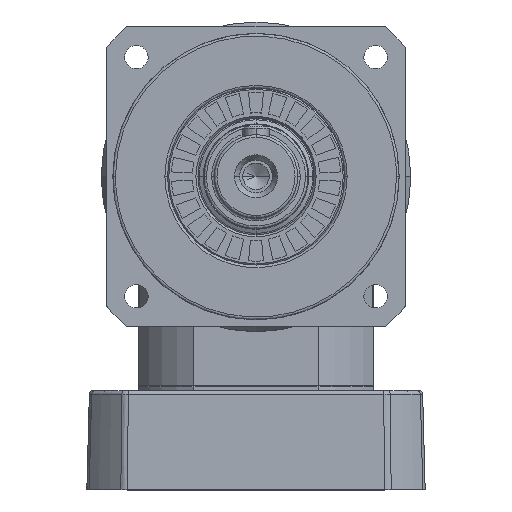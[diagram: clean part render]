
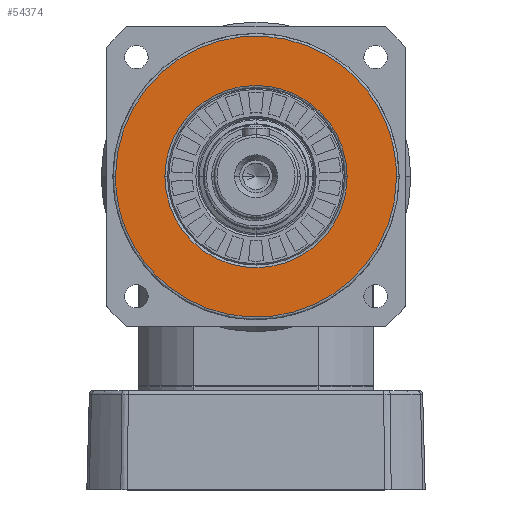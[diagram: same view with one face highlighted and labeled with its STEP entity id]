
A CAD part, top view. The second image highlights one B-rep face of the part: STEP entity #54374.
In plain terms, the highlighted planar face has unit normal (0, 0, 1).
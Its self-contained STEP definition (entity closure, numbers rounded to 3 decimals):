
#3728 = VERTEX_POINT ( 'NONE', #27450 ) ;
#4849 = CARTESIAN_POINT ( 'NONE',  ( -58.917, 6.72, 189.75 ) ) ;
#5689 = FACE_BOUND ( 'NONE', #73771, .T. ) ;
#6246 = CARTESIAN_POINT ( 'NONE',  ( 30.083, 6.72, 189.75 ) ) ;
#6442 = CARTESIAN_POINT ( 'NONE',  ( 30.083, 6.72, 189.75 ) ) ;
#7080 =( BOUNDED_CURVE ( )  B_SPLINE_CURVE ( 3, ( #6442, #30061, #29686, #24078 ),
 .UNSPECIFIED., .F., .T. ) 
 B_SPLINE_CURVE_WITH_KNOTS ( ( 4, 4 ),
 ( 0., 1. ),
 .UNSPECIFIED. ) 
 CURVE ( )  GEOMETRIC_REPRESENTATION_ITEM ( )  RATIONAL_B_SPLINE_CURVE ( ( 1., 0.333, 0.333, 1. ) ) 
 REPRESENTATION_ITEM ( '' )  );
#7733 = CARTESIAN_POINT ( 'NONE',  ( -77.917, 114.72, 189.75 ) ) ;
#10298 = ORIENTED_EDGE ( 'NONE', *, *, #71471, .F. ) ;
#16258 = CARTESIAN_POINT ( 'NONE',  ( 11.083, 6.72, 189.75 ) ) ;
#16936 = FACE_OUTER_BOUND ( 'NONE', #40154, .T. ) ;
#20708 = EDGE_CURVE ( 'NONE', #52757, #29165, #36647, .T. ) ;
#21006 = CARTESIAN_POINT ( 'NONE',  ( 11.083, 76.72, 189.75 ) ) ;
#24078 = CARTESIAN_POINT ( 'NONE',  ( -77.917, 6.72, 189.75 ) ) ;
#26510 = EDGE_CURVE ( 'NONE', #71844, #3728, #7080, .T. ) ;
#27450 = CARTESIAN_POINT ( 'NONE',  ( -77.917, 6.72, 189.75 ) ) ;
#27469 = DIRECTION ( 'NONE',  ( -1., 0., 0. ) ) ;
#28033 = EDGE_CURVE ( 'NONE', #29165, #52757, #40555, .T. ) ;
#29165 = VERTEX_POINT ( 'NONE', #36006 ) ;
#29686 = CARTESIAN_POINT ( 'NONE',  ( -77.917, -101.28, 189.75 ) ) ;
#30061 = CARTESIAN_POINT ( 'NONE',  ( 30.083, -101.28, 189.75 ) ) ;
#30152 = CARTESIAN_POINT ( 'NONE',  ( 30.083, 6.72, 189.75 ) ) ;
#36006 = CARTESIAN_POINT ( 'NONE',  ( 11.083, 6.72, 189.75 ) ) ;
#36455 = CARTESIAN_POINT ( 'NONE',  ( -58.917, 76.72, 189.75 ) ) ;
#36647 =( BOUNDED_CURVE ( )  B_SPLINE_CURVE ( 3, ( #44381, #56348, #67581, #16258 ),
 .UNSPECIFIED., .F., .F. ) 
 B_SPLINE_CURVE_WITH_KNOTS ( ( 4, 4 ),
 ( 0., 1. ),
 .UNSPECIFIED. ) 
 CURVE ( )  GEOMETRIC_REPRESENTATION_ITEM ( )  RATIONAL_B_SPLINE_CURVE ( ( 1., 0.333, 0.333, 1. ) ) 
 REPRESENTATION_ITEM ( '' )  );
#39168 =( BOUNDED_CURVE ( )  B_SPLINE_CURVE ( 3, ( #59090, #7733, #53076, #6246 ),
 .UNSPECIFIED., .F., .T. ) 
 B_SPLINE_CURVE_WITH_KNOTS ( ( 4, 4 ),
 ( 0., 1. ),
 .UNSPECIFIED. ) 
 CURVE ( )  GEOMETRIC_REPRESENTATION_ITEM ( )  RATIONAL_B_SPLINE_CURVE ( ( 1., 0.333, 0.333, 1. ) ) 
 REPRESENTATION_ITEM ( '' )  );
#39698 = ORIENTED_EDGE ( 'NONE', *, *, #28033, .F. ) ;
#39785 = DIRECTION ( 'NONE',  ( 0., 0., -1. ) ) ;
#40154 = EDGE_LOOP ( 'NONE', ( #10298, #57930 ) ) ;
#40555 =( BOUNDED_CURVE ( )  B_SPLINE_CURVE ( 3, ( #56188, #21006, #36455, #4849 ),
 .UNSPECIFIED., .F., .T. ) 
 B_SPLINE_CURVE_WITH_KNOTS ( ( 4, 4 ),
 ( 0., 1. ),
 .UNSPECIFIED. ) 
 CURVE ( )  GEOMETRIC_REPRESENTATION_ITEM ( )  RATIONAL_B_SPLINE_CURVE ( ( 1., 0.333, 0.333, 1. ) ) 
 REPRESENTATION_ITEM ( '' )  );
#44381 = CARTESIAN_POINT ( 'NONE',  ( -58.917, 6.72, 189.75 ) ) ;
#45061 = PLANE ( 'NONE',  #57546 ) ;
#49754 = CARTESIAN_POINT ( 'NONE',  ( -58.917, 6.72, 189.75 ) ) ;
#52757 = VERTEX_POINT ( 'NONE', #49754 ) ;
#53076 = CARTESIAN_POINT ( 'NONE',  ( 30.083, 114.72, 189.75 ) ) ;
#54374 = ADVANCED_FACE ( 'NONE', ( #16936, #5689 ), #45061, .F. ) ;
#56188 = CARTESIAN_POINT ( 'NONE',  ( 11.083, 6.72, 189.75 ) ) ;
#56348 = CARTESIAN_POINT ( 'NONE',  ( -58.917, -63.28, 189.75 ) ) ;
#57546 = AXIS2_PLACEMENT_3D ( 'NONE', #73885, #39785, #27469 ) ;
#57930 = ORIENTED_EDGE ( 'NONE', *, *, #26510, .F. ) ;
#59090 = CARTESIAN_POINT ( 'NONE',  ( -77.917, 6.72, 189.75 ) ) ;
#61826 = ORIENTED_EDGE ( 'NONE', *, *, #20708, .F. ) ;
#67581 = CARTESIAN_POINT ( 'NONE',  ( 11.083, -63.28, 189.75 ) ) ;
#71471 = EDGE_CURVE ( 'NONE', #3728, #71844, #39168, .T. ) ;
#71844 = VERTEX_POINT ( 'NONE', #30152 ) ;
#73771 = EDGE_LOOP ( 'NONE', ( #39698, #61826 ) ) ;
#73885 = CARTESIAN_POINT ( 'NONE',  ( -23.917, 6.72, 189.75 ) ) ;
